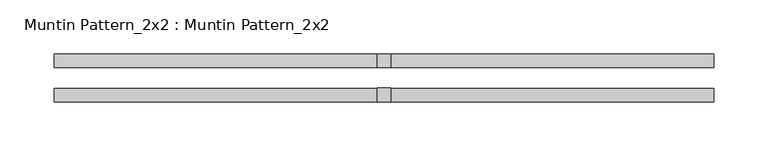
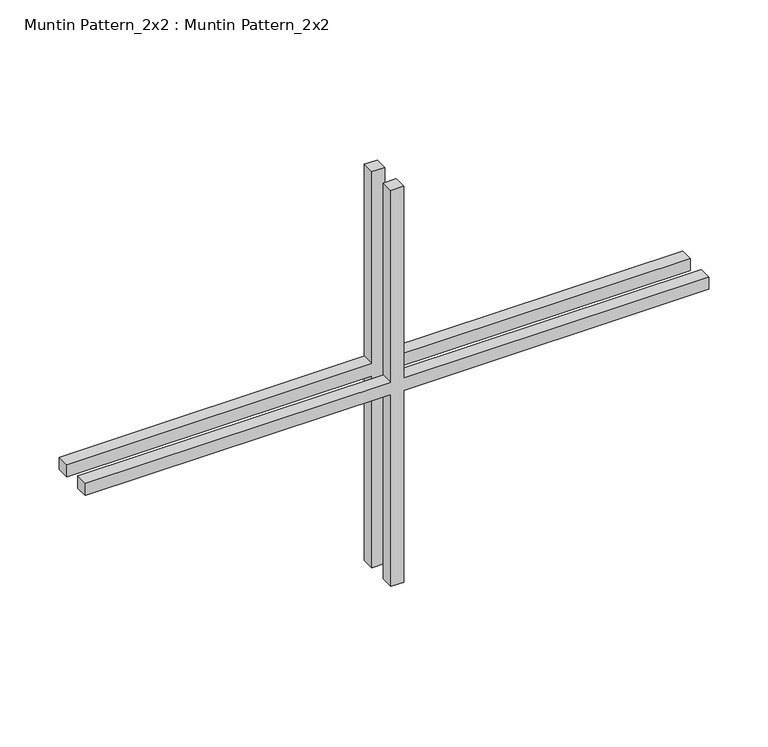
"""IFC4 building model written with IfcOpenShell, lengths in millimetres: proxy geometry, Muntin Pattern_2x2 : Muntin Pattern_2x2."""

from ifc_helpers import new_model, si_unit, frame, origin, place, context, project, spatial, polyline, outline, extrude, source, transform, mapped, element, save


def muntin_pattern_2x2_muntin_pattern_2x2_a0f89851(model_context):
    return source(origin(), model_context, "Body", "SweptSolid", [
        extrude(outline(polyline([(211.1375, -6.35), (211.1375, -304.8), (198.4375, -304.8), (198.4375, -6.35), (0.0, -6.35), (0.0, 6.35), (198.4375, 6.35), (198.4375, 304.8), (211.1375, 304.8), (211.1375, 6.35), (409.575, 6.35), (409.575, -6.35), (211.1375, -6.35)])), frame((0.0, 9.525, 0.0), z_axis=(0.0, 1.0, 0.0), x_axis=(0.0, 0.0, 1.0)), (0.0, 0.0, 1.0), 12.7),
        extrude(outline(polyline([(211.1375, -6.35), (211.1375, -304.8), (198.4375, -304.8), (198.4375, -6.35), (0.0, -6.35), (0.0, 6.35), (198.4375, 6.35), (198.4375, 304.8), (211.1375, 304.8), (211.1375, 6.35), (409.575, 6.35), (409.575, -6.35), (211.1375, -6.35)])), frame((0.0, -22.225, 0.0), z_axis=(0.0, 1.0, 0.0), x_axis=(0.0, 0.0, 1.0)), (0.0, 0.0, 1.0), 12.7),
    ])


if __name__ == "__main__":
    model = new_model("IFC4")
    model_context = context("Model", 3, world=origin())
    ifc_project = project(units=[si_unit("LENGTHUNIT", "METRE", prefix="MILLI")], contexts=[model_context])
    site = spatial("IfcSite", under=ifc_project)
    building = spatial("IfcBuilding", under=site)
    placement = place(None, origin())
    muntin_pattern_2x2_muntin_pattern_2x2_shape = muntin_pattern_2x2_muntin_pattern_2x2_a0f89851(model_context)
    element("IfcBuildingElementProxy", 1, Name="Muntin Pattern_2x2 : Muntin Pattern_2x2", ObjectType="Muntin Pattern_2x2 : Muntin Pattern_2x2", at=placement, inside=building, context=model_context, shape_type="MappedRepresentation", body=[
        mapped(muntin_pattern_2x2_muntin_pattern_2x2_shape, transform((0.0, 0.0, 0.0), x_axis=(1.0, 0.0, 0.0), y_axis=(0.0, 1.0, 0.0), z_axis=(0.0, 0.0, 1.0))),
    ])
    save(model, "model.ifc")
